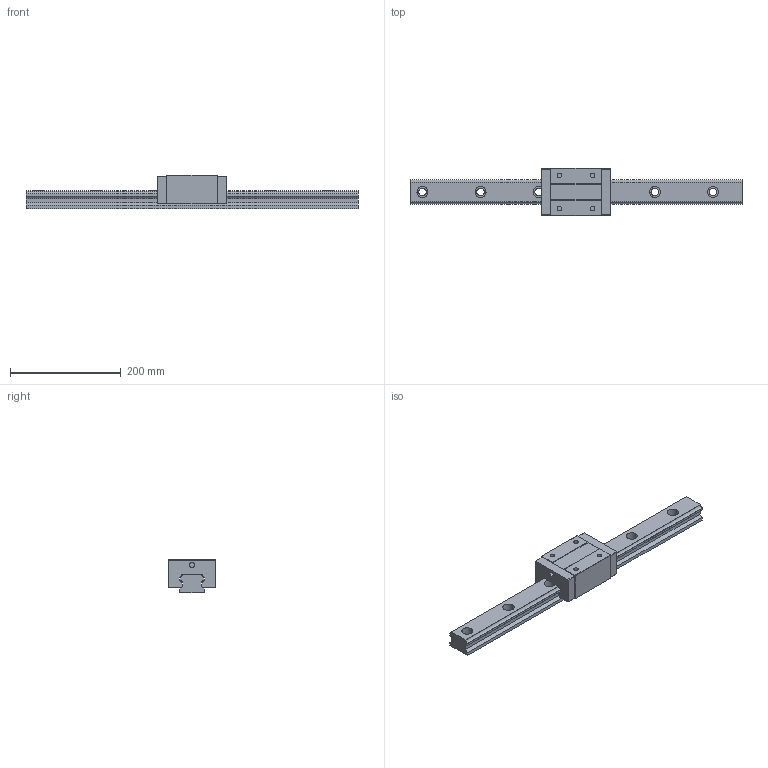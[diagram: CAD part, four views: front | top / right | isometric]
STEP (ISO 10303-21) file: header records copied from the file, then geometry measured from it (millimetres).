
FILE_DESCRIPTION (( 'STEP AP203' ), '1' );
FILE_NAME ('TRS45VN-XN.STEP', '2023-02-09T09:45:51', ( '' ), ( '' ), 'SwSTEP 2.0', 'SolidWorks 2019', '' );
FILE_SCHEMA (( 'CONFIG_CONTROL_DESIGN' ));
Length unit declared in the file: millimetre
Products named in the file (1): TRS45VN-XN
Bounding box: 600 x 86 x 60 mm (x, y, z)
Volume: 1135736 mm3; surface area: 169487.5 mm2
Topology: 4 solids, 4 shells, 140 faces, 360 edges, 240 vertices
Faces by surface type: plane 84, cylinder 56
Entity records: 4371 total; most frequent: DIRECTION 754, CARTESIAN_POINT 741, ORIENTED_EDGE 720, EDGE_CURVE 360, AXIS2_PLACEMENT_3D 253, LINE 248, VECTOR 248, VERTEX_POINT 240
